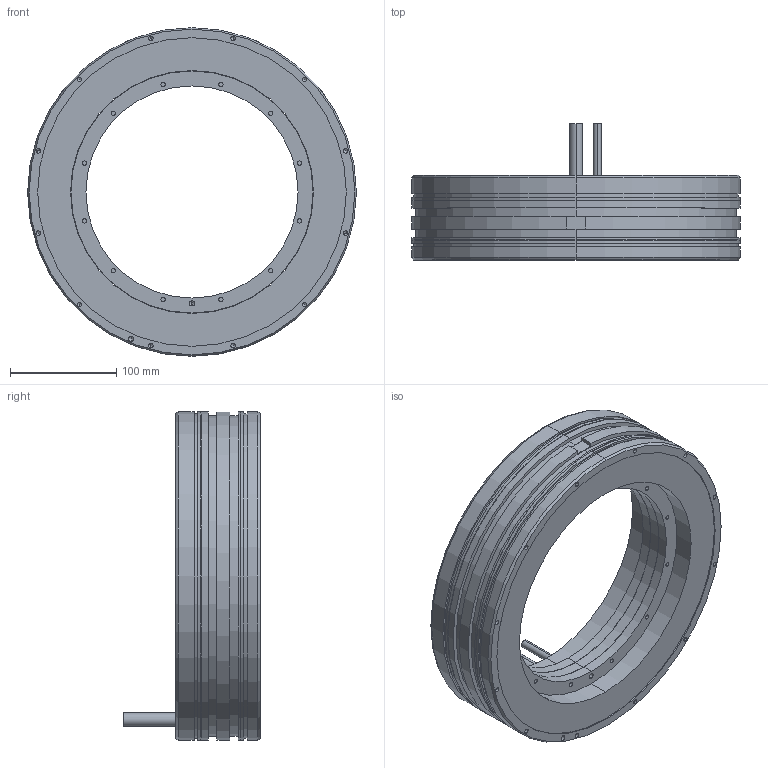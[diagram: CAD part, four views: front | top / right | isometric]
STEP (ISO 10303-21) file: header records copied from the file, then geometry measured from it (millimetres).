
FILE_DESCRIPTION (( 'STEP AP203' ), '1' );
FILE_NAME ('TM-2-73.STEP', '2020-10-20T05:48:11', ( '' ), ( '' ), 'SwSTEP 2.0', 'SolidWorks 2015', '' );
FILE_SCHEMA (( 'CONFIG_CONTROL_DESIGN' ));
Length unit declared in the file: millimetre
Products named in the file (3): TM-2-7X_rotor_TM-2-73_stator; TM-2-73; TM-2-7X_stator_TM-2-73_stator
Assembly tree (2 placements, depth 2):
  TM-2-73
    TM-2-7X_stator_TM-2-73_stator
    TM-2-7X_rotor_TM-2-73_stator
Bounding box: 310 x 129 x 310 mm (x, y, z)
Volume: 2902491.4 mm3; surface area: 296457 mm2
Topology: 2 solids, 2 shells, 253 faces, 567 edges, 326 vertices
Faces by surface type: cylinder 144, cone 64, plane 45
Entity records: 6998 total; most frequent: DIRECTION 1319, CARTESIAN_POINT 1095, ORIENTED_EDGE 1022, AXIS2_PLACEMENT_3D 550, EDGE_CURVE 511, VERTEX_POINT 326, EDGE_LOOP 321, CIRCLE 292
